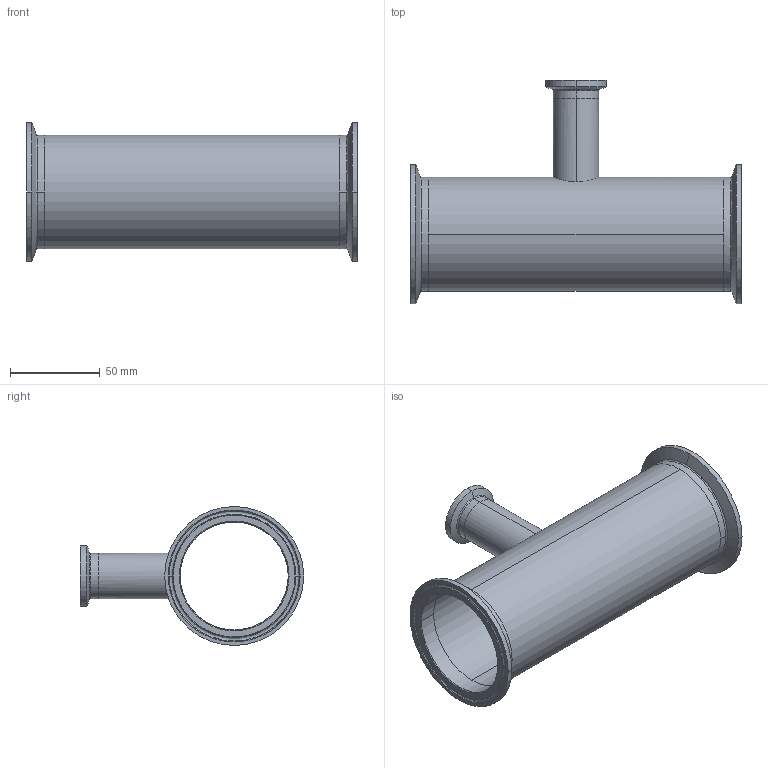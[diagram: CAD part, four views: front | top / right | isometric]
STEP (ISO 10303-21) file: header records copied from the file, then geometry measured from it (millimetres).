
FILE_DESCRIPTION (( 'STEP AP214' ), '1' );
FILE_NAME ('TEG7R6L2.5x1.0-..Type A.STEP', '2016-05-24T06:53:41', ( 'eran' ), ( '' ), 'SwSTEP 2.0', 'SolidWorks 2016', '' );
FILE_SCHEMA (( 'AUTOMOTIVE_DESIGN' ));
Length unit declared in the file: millimetre
Products named in the file (1): TEG7R6L2.5x1.0-..Type A
Bounding box: 184.2 x 124.4 x 77.39 mm (x, y, z)
Volume: 78425.6 mm3; surface area: 87947.5 mm2
Topology: 4 solids, 4 shells, 84 faces, 198 edges, 126 vertices
Faces by surface type: cylinder 28, bspline 28, cone 16, plane 12
Entity records: 4155 total; most frequent: CARTESIAN_POINT 2169, DIRECTION 426, ORIENTED_EDGE 396, EDGE_CURVE 198, AXIS2_PLACEMENT_3D 191, CIRCLE 134, VERTEX_POINT 126, EDGE_LOOP 98
